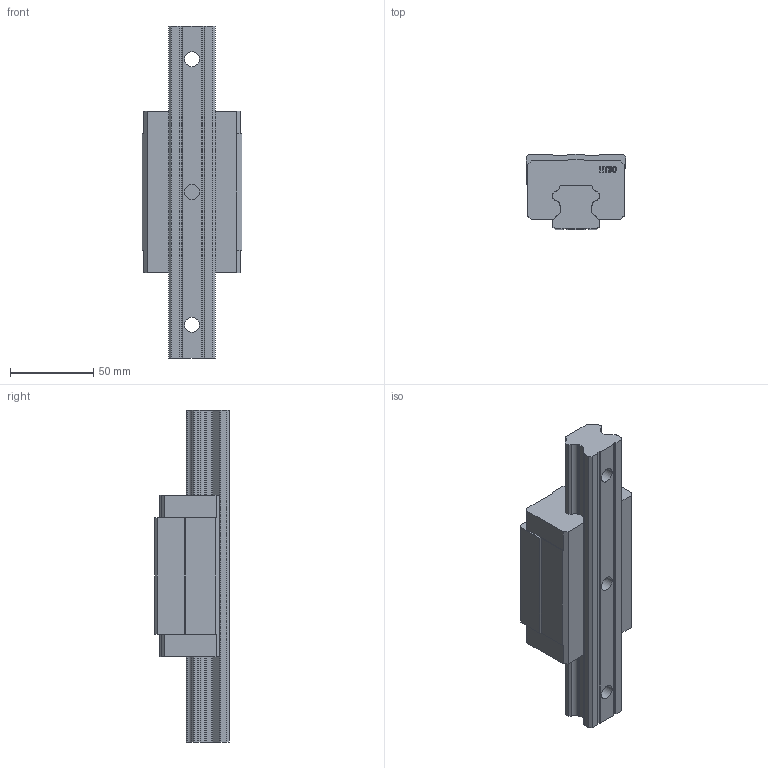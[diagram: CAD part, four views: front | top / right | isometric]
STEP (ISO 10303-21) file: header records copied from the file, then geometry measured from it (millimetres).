
FILE_DESCRIPTION (( 'STEP AP214' ), '1' );
FILE_NAME ('7.1019 Lineaarikelkka HTH30CA.STEP', '2026-03-11T06:31:52', ( '' ), ( '' ), 'SwSTEP 2.0', 'SolidWorks 2025', '' );
FILE_SCHEMA (( 'AUTOMOTIVE_DESIGN' ));
Length unit declared in the file: millimetre
Products named in the file (3): HGH30; HGR30; 7.1019 Lineaarikelkka HTH30CA
Assembly tree (2 placements, depth 2):
  7.1019 Lineaarikelkka HTH30CA
    HGH30
    HGR30
Bounding box: 60 x 45 x 200 mm (x, y, z)
Volume: 285149.7 mm3; surface area: 53217.9 mm2
Topology: 2 solids, 2 shells, 241 faces, 657 edges, 438 vertices
Faces by surface type: plane 154, cylinder 62, bspline 25
Entity records: 12738 total; most frequent: CARTESIAN_POINT 3906, ORIENTED_EDGE 1314, DIRECTION 1173, EDGE_CURVE 657, LINE 483, VECTOR 483, VERTEX_POINT 438, AXIS2_PLACEMENT_3D 345
